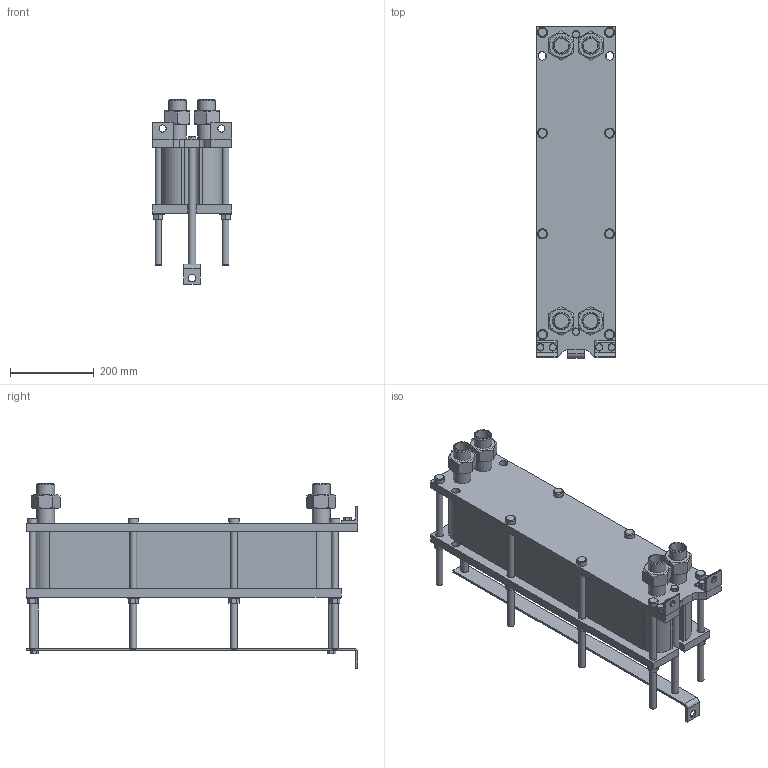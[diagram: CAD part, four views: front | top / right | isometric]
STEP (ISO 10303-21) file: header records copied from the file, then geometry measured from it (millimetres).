
FILE_DESCRIPTION(/* description */ (''),/* implementation_level */ '2;1');
FILE_NAME(/* name */ 'C:\Users\zhuro\Desktop\ENCO\TO\ЭН-008\ЭН-0,5-008-44-1.stp',/* time_stamp */ '2022-06-06T10:48:42+03:00',/* author */ ('zhuro'),/* organization */ (''),/* preprocessor_version */ 'ST-DEVELOPER v18.1',/* originating_system */ 'Autodesk Inventor 2022',/* authorisation */ '');
FILE_SCHEMA (('AUTOMOTIVE_DESIGN { 1 0 10303 214 3 1 1 }'));
Length unit declared in the file: millimetre
Products named in the file (1): ЭН-0,5-008-44-1
Bounding box: 190 x 790 x 440.2 mm (x, y, z)
Volume: 20639025.4 mm3; surface area: 1547830.3 mm2
Topology: 40 solids, 40 shells, 428 faces, 924 edges, 606 vertices
Faces by surface type: plane 273, cylinder 109, cone 40, torus 6
Full cylindrical faces by diameter (mm): 12 x6, 14 x2, 16 x20, 17 x8, 18 x19, 20 x5, 24 x8, 28 x8, 34.3 x8, 42.3 x8
Entity records: 15843 total; most frequent: CARTESIAN_POINT 5991, DIRECTION 1984, ORIENTED_EDGE 1848, EDGE_CURVE 924, AXIS2_PLACEMENT_3D 715, VERTEX_POINT 606, LINE 554, VECTOR 554
